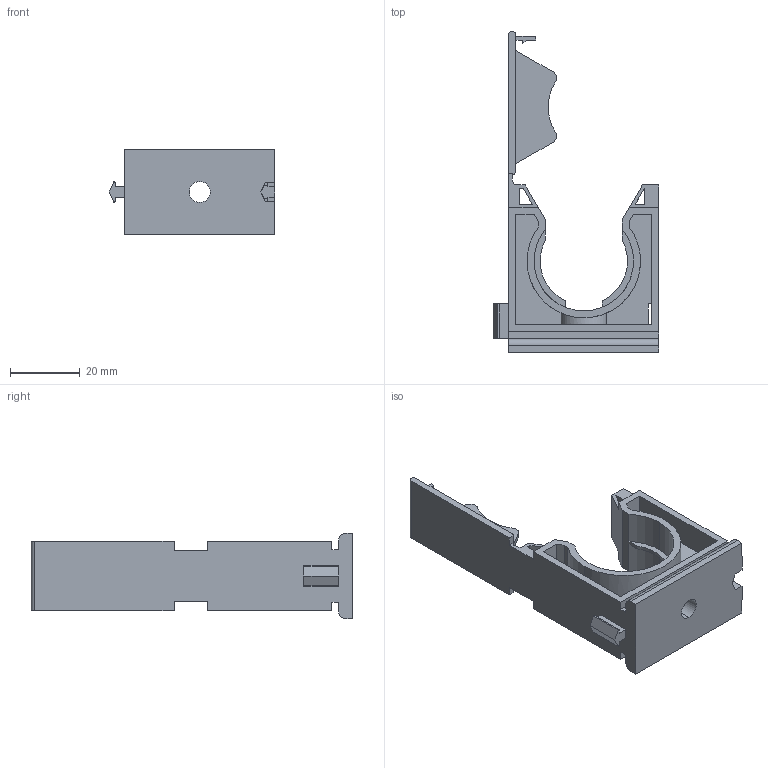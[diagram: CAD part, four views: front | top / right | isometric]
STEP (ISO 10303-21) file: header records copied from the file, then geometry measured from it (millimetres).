
FILE_DESCRIPTION (( 'STEP AP203' ), '1' );
FILE_NAME ('WQSC-AD28.5.STEP', '2013-03-20T06:47:53', ( 'User' ), ( 'Microsoft' ), 'SwSTEP 2.0', 'SolidWorks 2010', '' );
FILE_SCHEMA (( 'CONFIG_CONTROL_DESIGN' ));
Length unit declared in the file: millimetre
Products named in the file (1): WQSC-AD28.5
Bounding box: 47.47 x 92 x 24.5 mm (x, y, z)
Volume: 17478.3 mm3; surface area: 14485.5 mm2
Topology: 1 solids, 1 shells, 141 faces, 408 edges, 270 vertices
Faces by surface type: plane 106, cylinder 35
Entity records: 4831 total; most frequent: CARTESIAN_POINT 962, ORIENTED_EDGE 816, DIRECTION 756, EDGE_CURVE 408, VECTOR 332, LINE 332, VERTEX_POINT 270, AXIS2_PLACEMENT_3D 212
